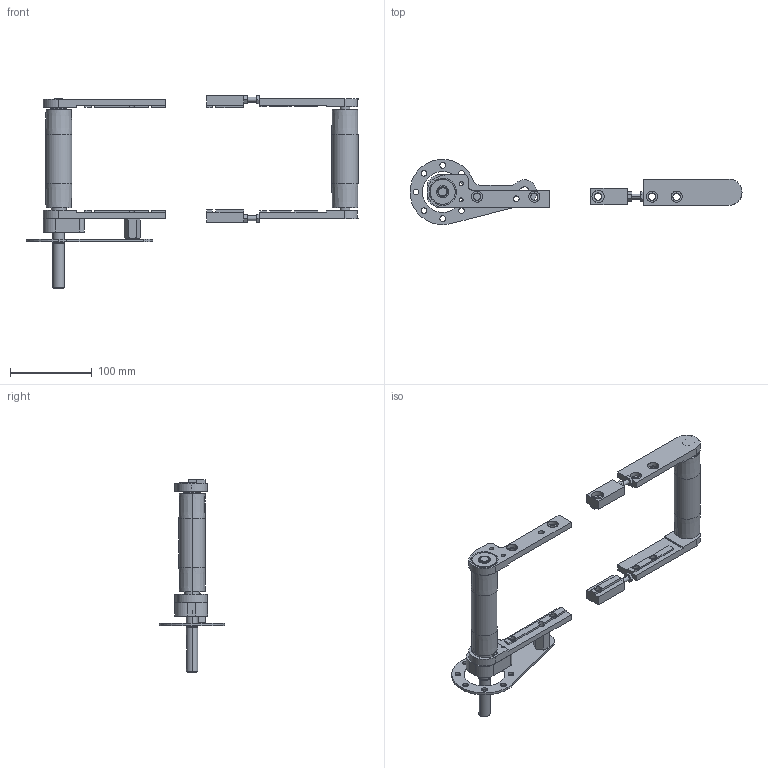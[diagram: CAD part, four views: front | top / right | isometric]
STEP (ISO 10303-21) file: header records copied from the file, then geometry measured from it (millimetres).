
FILE_DESCRIPTION (( 'STEP AP203' ), '1' );
FILE_NAME ('084.030.150.STEP', '2018-03-12T08:40:47', ( '' ), ( '' ), 'SwSTEP 2.0', 'SolidWorks 2016', '' );
FILE_SCHEMA (( 'CONFIG_CONTROL_DESIGN' ));
Length unit declared in the file: millimetre
Products named in the file (17): 084.801.027 sx; 084.802.027; 084.030.101_TUBO 32x3 L=150; 084.801.025; 084.807.005; 084.030.102_084.030.000; 084.801.047; 084.802.036; CUSCINETTI CB_CB 201; 084.801.046; 084.801.016 DX; 084.802.008; 084.030.103; CUSCINETTI CB_CB 202; 084.801.016 SX; 084.801.027 dx; 084.030.150
Assembly tree (18 placements, depth 2):
  084.030.150
    084.801.046
    084.801.047
    084.030.101_TUBO 32x3 L=150
    084.802.027
    084.807.005
    084.801.027 dx
    084.801.027 sx
    084.801.025
    084.030.102_084.030.000
    084.802.036  x2
    084.030.103
    084.801.016 DX
    084.801.016 SX
    084.802.008  x2
    CUSCINETTI CB_CB 202
    CUSCINETTI CB_CB 201
Bounding box: 406 x 80 x 236 mm (x, y, z)
Volume: 299646 mm3; surface area: 169235.6 mm2
Topology: 24 solids, 26 shells, 619 faces, 1550 edges, 995 vertices
Faces by surface type: cylinder 264, plane 255, cone 48, torus 36, sphere 12, bspline 4
Entity records: 18565 total; most frequent: CARTESIAN_POINT 3511, DIRECTION 2958, ORIENTED_EDGE 2624, EDGE_CURVE 1312, AXIS2_PLACEMENT_3D 1169, VERTEX_POINT 852, EDGE_LOOP 636, CIRCLE 626
